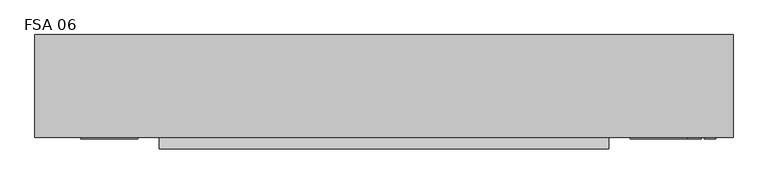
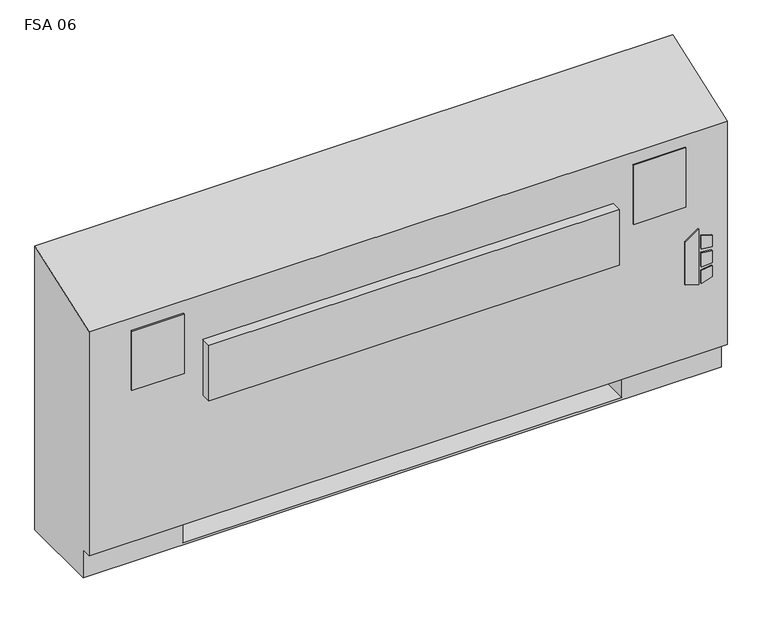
"""IFC4 building model written with IfcOpenShell, lengths in millimetres: proxy geometry, Vertical_Fan_Coil_Unit_-_FSA_-_IEC_-_2-Pipe_FS-FR_LH_2022 : FSA 06."""

import ifcopenshell
import ifcopenshell.guid

model = None  # the IFC model being written
_history = None  # IfcOwnerHistory: only IFC2X3 demands one
_inside = {}  # id of a spatial element -> (the spatial element, [elements in it])
_under = {}  # id of a project, library or spatial element -> (it, [spatial elements below it])
_declared = {}  # id of a project -> (the project, [libraries it declares])
_typed = {}  # id of a type object -> (the type object, [elements of that type])
_made_of = {}  # id of a material, layer set ... -> (it, [elements and type objects made of it])


def new_model(schema):
    """Start an empty IFC model of exactly this schema.

    Asked for "IFC4X3", IfcOpenShell would pick the latest addendum, in which some entities
    have other attributes; the version numbers below select the first issue.
    IFC2X3 requires an IfcOwnerHistory on every rooted entity: one is made here for all.
    """
    global model, _history
    if schema == "IFC4X3":
        model = ifcopenshell.file(schema_version=(4, 3, 0, 0))
    else:
        model = ifcopenshell.file(schema=schema)
    _inside.clear()
    _under.clear()
    _declared.clear()
    _typed.clear()
    _made_of.clear()
    _history = None
    if model.schema == "IFC2X3":
        org = make("IfcOrganization", Name="unknown")
        user = make(
            "IfcPersonAndOrganization",
            ThePerson=make("IfcPerson", FamilyName="unknown"),
            TheOrganization=org,
        )
        app = make(
            "IfcApplication",
            ApplicationDeveloper=org,
            Version="unknown",
            ApplicationFullName="unknown",
            ApplicationIdentifier="unknown",
        )
        _history = make(
            "IfcOwnerHistory",
            OwningUser=user,
            OwningApplication=app,
            ChangeAction="ADDED",
            CreationDate=0,
        )
    return model


def make(cls, **values):
    """One entity of the class cls with the attributes given. An attribute that is None is left unset."""
    return model.create_entity(
        cls, **{name: value for name, value in values.items() if value is not None}
    )


def rooted(cls, **values):
    """An entity with a GlobalId (a new one), such as an element, a storey or a relation."""
    return make(cls, GlobalId=ifcopenshell.guid.new(), OwnerHistory=_history, **values)


def si_unit(unit_type, name, prefix=None):
    """IfcSIUnit, for example si_unit("LENGTHUNIT", "METRE", prefix="MILLI")."""
    return make("IfcSIUnit", UnitType=unit_type, Prefix=prefix, Name=name)


def assignment(units):
    """IfcUnitAssignment: the units of a project."""
    return None if units is None else make("IfcUnitAssignment", Units=units)


def point(xyz):
    """IfcCartesianPoint."""
    return None if xyz is None else make("IfcCartesianPoint", Coordinates=xyz)


def direction(xyz):
    """IfcDirection."""
    return None if xyz is None else make("IfcDirection", DirectionRatios=xyz)


def frame(location, z_axis=None, x_axis=None):
    """IfcAxis2Placement3D, a coordinate frame: its origin and axes. An axis left out is left unset."""
    return make(
        "IfcAxis2Placement3D",
        Location=point(location),
        Axis=direction(z_axis),
        RefDirection=direction(x_axis),
    )


def frame_2d(location, x_axis=None):
    """IfcAxis2Placement2D, a coordinate frame in the plane: its origin and x axis."""
    return make(
        "IfcAxis2Placement2D", Location=point(location), RefDirection=direction(x_axis)
    )


def origin():
    """The frame at (0, 0, 0) with its axes left unset."""
    return frame((0.0, 0.0, 0.0))


def place(relative_to, where):
    """IfcLocalPlacement: puts the frame where relative to a parent placement (None: the world)."""
    return make(
        "IfcLocalPlacement", PlacementRelTo=relative_to, RelativePlacement=where
    )


def context(
    kind, dimensions, precision=None, world=None, true_north=None, identifier=None
):
    """IfcGeometricRepresentationContext, for example the 3D "Model" context."""
    return make(
        "IfcGeometricRepresentationContext",
        ContextIdentifier=identifier,
        ContextType=kind,
        CoordinateSpaceDimension=dimensions,
        Precision=precision,
        WorldCoordinateSystem=world,
        TrueNorth=true_north,
    )


def project(units=None, contexts=None):
    """IfcProject with its units and contexts."""
    return rooted(
        "IfcProject",
        Name="project",
        RepresentationContexts=contexts,
        UnitsInContext=assignment(units),
    )


def spatial(cls, under=None, at=None, **own):
    """A site, building, storey or space (cls), placed at a placement, below another one or the project."""
    s = rooted(cls, ObjectPlacement=at, **own)
    if under is not None:
        _under.setdefault(under.id(), (under, []))[1].append(s)
    return s


def polyline(points):
    """IfcPolyline through the points."""
    return make("IfcPolyline", Points=[point(p) for p in points])


def circle_curve(where, radius):
    """IfcCircle in the frame where."""
    return make("IfcCircle", Position=where, Radius=radius)


def trimmed(basis, trim1, trim2, sense, master):
    """IfcTrimmedCurve: the piece of a basis curve between two trims."""
    return make(
        "IfcTrimmedCurve",
        BasisCurve=basis,
        Trim1=trim1,
        Trim2=trim2,
        SenseAgreement=sense,
        MasterRepresentation=master,
    )


def segment(curve, same_sense, transition):
    """IfcCompositeCurveSegment."""
    return make(
        "IfcCompositeCurveSegment",
        Transition=transition,
        SameSense=same_sense,
        ParentCurve=curve,
    )


def composite_curve(segments, self_intersect=None):
    """IfcCompositeCurve: segments joined end to end."""
    return make("IfcCompositeCurve", Segments=segments, SelfIntersect=self_intersect)


def outline(outer, holes=None, kind="AREA"):
    """IfcArbitraryClosedProfileDef: a profile drawn as a closed curve; with holes, ...WithVoids."""
    if holes is None:
        return make("IfcArbitraryClosedProfileDef", ProfileType=kind, OuterCurve=outer)
    return make(
        "IfcArbitraryProfileDefWithVoids",
        ProfileType=kind,
        OuterCurve=outer,
        InnerCurves=holes,
    )


def extrude(swept, where, along, depth):
    """IfcExtrudedAreaSolid: the profile swept, set in the frame where, extruded along a direction by depth."""
    return make(
        "IfcExtrudedAreaSolid",
        SweptArea=swept,
        Position=where,
        ExtrudedDirection=direction(along),
        Depth=depth,
    )


def shape(context_of_items, identifier, shape_type, items):
    """IfcShapeRepresentation: the items that make up one representation, for example the "Body"."""
    return make(
        "IfcShapeRepresentation",
        ContextOfItems=context_of_items,
        RepresentationIdentifier=identifier,
        RepresentationType=shape_type,
        Items=items,
    )


def source(mapping_origin, context_of_items, identifier, shape_type, items):
    """IfcRepresentationMap: a shape defined once, which mapped items show again and again."""
    return make(
        "IfcRepresentationMap",
        MappingOrigin=mapping_origin,
        MappedRepresentation=shape(context_of_items, identifier, shape_type, items),
    )


def transform(
    local_origin,
    x_axis=None,
    y_axis=None,
    z_axis=None,
    scale=None,
    scale2=None,
    scale3=None,
    uniform=True,
):
    """IfcCartesianTransformationOperator3D, or its non-uniform kind. x_axis, y_axis, z_axis: its Axis1, 2, 3."""
    if uniform:
        return make(
            "IfcCartesianTransformationOperator3D",
            Axis1=direction(x_axis),
            Axis2=direction(y_axis),
            LocalOrigin=point(local_origin),
            Scale=scale,
            Axis3=direction(z_axis),
        )
    return make(
        "IfcCartesianTransformationOperator3DnonUniform",
        Axis1=direction(x_axis),
        Axis2=direction(y_axis),
        LocalOrigin=point(local_origin),
        Scale=scale,
        Axis3=direction(z_axis),
        Scale2=scale2,
        Scale3=scale3,
    )


def mapped(mapping_source, mapping_target):
    """IfcMappedItem: shows the shape of a source again, moved by a transform."""
    return make(
        "IfcMappedItem", MappingSource=mapping_source, MappingTarget=mapping_target
    )


def made_of(thing, what):
    """Note that an element or type object is made of a material, layer set ...; save() writes the relation."""
    if what is not None:
        _made_of.setdefault(what.id(), (what, []))[1].append(thing)
    return thing


def element(
    cls,
    number,
    at=None,
    inside=None,
    cuts=None,
    type_object=None,
    material=None,
    context=None,
    identifier="Body",
    shape_type=None,
    held_by="IfcProductDefinitionShape",
    body=None,
    shapes=None,
    **own,
):
    """One element of the class cls, such as IfcWall. Its Tag is "e" and its number.

    at: its placement. inside: the storey or other place that contains it. cuts: it is an
    opening in that element (IfcRelVoidsElement). A single representation is given by context,
    identifier, shape_type and body (its items); several are given by shapes. held_by: the class
    of the entity that holds the representations. save() writes the other relations.
    """
    e = rooted(cls, Tag="e%d" % number, ObjectPlacement=at, **own)
    if body is not None:
        shapes = [shape(context, identifier, shape_type, body)]
    if shapes is not None:
        e.Representation = make(held_by, Representations=shapes)
    if inside is not None:
        _inside.setdefault(inside.id(), (inside, []))[1].append(e)
    if cuts is not None:
        rooted(
            "IfcRelVoidsElement", RelatingBuildingElement=cuts, RelatedOpeningElement=e
        )
    if type_object is not None:
        _typed.setdefault(type_object.id(), (type_object, []))[1].append(e)
    return made_of(e, material)


def aggregate(whole, parts):
    """IfcRelAggregates: a whole, such as a stair, and the parts it consists of."""
    return rooted("IfcRelAggregates", RelatingObject=whole, RelatedObjects=parts)


def save(model, path):
    """Write the relations noted so far, then the file.

    IfcRelAggregates (storeys below a building ...), IfcRelContainedInSpatialStructure (elements
    in a storey), IfcRelDefinesByType, IfcRelAssociatesMaterial and IfcRelDeclares: one each for
    every whole, place, type object, material and project.
    """
    for whole, parts in _under.values():
        aggregate(whole, parts)
    for where, things in _inside.values():
        rooted(
            "IfcRelContainedInSpatialStructure",
            RelatedElements=things,
            RelatingStructure=where,
        )
    for kind, things in _typed.values():
        rooted("IfcRelDefinesByType", RelatedObjects=things, RelatingType=kind)
    for what, things in _made_of.values():
        rooted("IfcRelAssociatesMaterial", RelatedObjects=things, RelatingMaterial=what)
    for by, libraries in _declared.values():
        rooted("IfcRelDeclares", RelatingContext=by, RelatedDefinitions=libraries)
    model.write(path)


def plane_surface(at):
    """IfcPlane: the flat surface through the origin of the frame at, square to its z axis."""
    return make("IfcPlane", Position=at)


def revolved_surface(curve, axis_point, axis_direction):
    """IfcSurfaceOfRevolution: the curve turned about the line through axis_point along axis_direction."""
    return make(
        "IfcSurfaceOfRevolution",
        SweptCurve=make("IfcArbitraryOpenProfileDef", ProfileType="CURVE", Curve=curve),
        AxisPosition=make("IfcAxis1Placement", Location=point(axis_point), Axis=direction(axis_direction)),
    )


def advanced_brep(points, edges, surfaces, faces):
    """IfcAdvancedBrep: a solid bounded by faces that lie on surfaces and meet in shared edges.

    An edge is (start, end): straight between two places in points (the first is 0);
    or (start, end, curve); or (start, end, curve, False) where it runs against its curve.
    A face is (place in surfaces, loops), or (place, loops, False) where it looks against
    its surface's normal. A loop lists edges by number (the first is 1), with a minus sign
    where the edge is run from its end to its start. The first loop is the outer one.
    """
    corners = [point(p) for p in points]
    vertices = [make("IfcVertexPoint", VertexGeometry=c) for c in corners]
    made = []
    for start, end, *more in edges:
        made.append(
            make(
                "IfcEdgeCurve",
                EdgeStart=vertices[start],
                EdgeEnd=vertices[end],
                EdgeGeometry=more[0] if more else make("IfcPolyline", Points=[corners[start], corners[end]]),
                SameSense=more[1] if len(more) > 1 else True,
            )
        )
    hull = []
    for where, loops, *sense in faces:
        bounds = []
        for j, loop in enumerate(loops):
            ring = [make("IfcOrientedEdge", EdgeElement=made[abs(k) - 1], Orientation=k > 0) for k in loop]
            bounds.append(
                make(
                    "IfcFaceOuterBound" if j == 0 else "IfcFaceBound",
                    Bound=make("IfcEdgeLoop", EdgeList=ring),
                    Orientation=True,
                )
            )
        hull.append(make("IfcAdvancedFace", Bounds=bounds, FaceSurface=surfaces[where], SameSense=sense[0] if sense else True))
    return make("IfcAdvancedBrep", Outer=make("IfcClosedShell", CfsFaces=hull))


def fsa_06_cc0eff2d(model_context):
    return source(origin(), model_context, "Body", "SolidModel", [
        extrude(outline(polyline([(263.9480703, 823.9868862), (254.0, 856.1602728), (396.1709244, 856.1602728), (373.1489183, 823.9868862), (263.9480703, 823.9868862)])), frame((0.0, 12.7, 0.0), z_axis=(0.0, 1.0, 0.0), x_axis=(0.0, 0.0, 1.0)), (0.0, 0.0, 1.0), 3.175),
        extrude(outline(polyline([(342.9473557, 862.9186058), (339.7449632, 889.0), (368.9738042, 889.0), (377.0382193, 862.9186058), (342.9473557, 862.9186058)])), frame((0.0, 12.7, 0.0), z_axis=(0.0, 1.0, 0.0), x_axis=(0.0, 0.0, 1.0)), (0.0, 0.0, 1.0), 3.175),
        extrude(outline(polyline([(291.0838288, 889.0), (287.4183279, 862.9186058), (254.0, 862.9186058), (262.6342372, 889.0), (291.0838288, 889.0)])), frame((0.0, 12.7, 0.0), z_axis=(0.0, 1.0, 0.0), x_axis=(0.0, 0.0, 1.0)), (0.0, 0.0, 1.0), 3.175),
        extrude(outline(polyline([(330.3989903, 889.0), (332.6808166, 862.9186058), (296.7432681, 862.9186058), (299.4845331, 889.0), (330.3989903, 889.0)])), frame((0.0, 12.7, 0.0), z_axis=(0.0, 1.0, 0.0), x_axis=(0.0, 0.0, 1.0)), (0.0, 0.0, 1.0), 3.175),
        extrude(outline(polyline([(806.45, 223.266), (806.45, 81.534), (685.8, 81.534), (685.8, 223.266), (806.45, 223.266)])), frame((0.0, 0.0, 327.025), z_axis=(0.0, 0.0, 1.0), x_axis=(1.0, 0.0, 0.0)), (0.0, 0.0, 1.0), 260.35),
        extrude(outline(polyline([(-393.7, 12.7), (-520.7, 12.7), (-520.7, 15.875), (-393.7, 15.875), (-393.7, 12.7)])), frame((0.0, 0.0, 463.55), z_axis=(0.0, 0.0, 1.0), x_axis=(1.0, 0.0, 0.0)), (0.0, 0.0, 1.0), 152.4),
        extrude(outline(polyline([(825.5, 12.7), (698.5, 12.7), (698.5, 15.875), (825.5, 15.875), (825.5, 12.7)])), frame((0.0, 0.0, 463.55), z_axis=(0.0, 0.0, 1.0), x_axis=(1.0, 0.0, 0.0)), (0.0, 0.0, 1.0), 152.4),
        extrude(outline(composite_curve([segment(trimmed(circle_curve(frame_2d((-444.5, 130.175)), 9.525), [point((-454.025, 130.175))], [point((-434.975, 130.175))], False, "CARTESIAN"), True, "CONTINUOUS"), segment(trimmed(circle_curve(frame_2d((-444.5, 130.175)), 9.525), [point((-434.975, 130.175))], [point((-454.025, 130.175))], False, "CARTESIAN"), True, "CONTINUOUS")], self_intersect=False)), frame((0.0, 0.0, 101.6), z_axis=(0.0, 0.0, 1.0), x_axis=(1.0, 0.0, 0.0)), (0.0, 0.0, 1.0), 25.4),
        extrude(outline(polyline([(-546.1, 63.5), (-546.1, 196.85), (-381.0, 196.85), (-381.0, 63.5), (-546.1, 63.5)])), frame((0.0, 0.0, 127.0), z_axis=(0.0, 0.0, 1.0), x_axis=(1.0, 0.0, 0.0)), (0.0, 0.0, 1.0), 50.8),
        extrude(outline(polyline([(650.875, -9.525), (-346.075, -9.525), (-346.075, 15.875), (650.875, 15.875), (650.875, -9.525)])), frame((0.0, 0.0, 389.3009245), z_axis=(0.0, 0.0, 1.0), x_axis=(1.0, 0.0, 0.0)), (0.0, 0.0, 1.0), 142.875),
        extrude(outline(composite_curve([segment(trimmed(circle_curve(frame_2d((109.347, 456.819)), 7.9375), [point((109.347, 464.7565))], [point((109.347, 448.8815))], False, "CARTESIAN"), True, "CONTINUOUS"), segment(trimmed(circle_curve(frame_2d((109.347, 456.819)), 7.9375), [point((109.347, 448.8815))], [point((109.347, 464.7565))], False, "CARTESIAN"), True, "CONTINUOUS")], self_intersect=False)), frame((-431.8, 0.0, 0.0), z_axis=(1.0, 0.0, 0.0), x_axis=(0.0, 1.0, 0.0)), (0.0, 0.0, 1.0), 50.8),
        extrude(outline(composite_curve([segment(trimmed(circle_curve(frame_2d((157.4546, 429.4632)), 7.9375), [point((157.4546, 437.4007))], [point((157.4546, 421.5257))], False, "CARTESIAN"), True, "CONTINUOUS"), segment(trimmed(circle_curve(frame_2d((157.4546, 429.4632)), 7.9375), [point((157.4546, 421.5257))], [point((157.4546, 437.4007))], False, "CARTESIAN"), True, "CONTINUOUS")], self_intersect=False)), frame((-431.8, 0.0, 0.0), z_axis=(1.0, 0.0, 0.0), x_axis=(0.0, 1.0, 0.0)), (0.0, 0.0, 1.0), 50.8),
        advanced_brep(
        [(-622.3, 244.475, 0.0), (927.1, 244.475, 0.0), (927.1, 41.275, 0.0), (-622.3, 41.275, 0.0), (-622.3, 244.475, 730.25), (927.1, 244.475, 730.25), (685.8, 244.475, 73.025), (914.4, 244.475, 73.025), (914.4, 244.475, 654.05), (685.8, 244.475, 654.05), (685.8, 244.475, 414.8650565), (714.375, 244.475, 414.8650565), (714.375, 244.475, 385.2349435), (685.8, 244.475, 385.2349435), (685.8, 244.475, 287.3375), (714.375, 244.475, 287.3375), (714.375, 244.475, 258.7625), (685.8, 244.475, 258.7625), (685.8, 244.475, 141.2875), (714.375, 244.475, 141.2875), (714.375, 244.475, 112.7125), (685.8, 244.475, 112.7125), (-381.0, 244.475, 654.05), (-609.6, 244.475, 654.05), (-609.6, 244.475, 73.025), (-381.0, 244.475, 73.025), (-381.0, 244.475, 112.7125), (-409.575, 244.475, 112.7125), (-409.575, 244.475, 141.2875), (-381.0, 244.475, 141.2875), (-381.0, 244.475, 258.7625), (-409.575, 244.475, 258.7625), (-409.575, 244.475, 287.3375), (-381.0, 244.475, 287.3375), (-381.0, 244.475, 385.2349435), (-409.575, 244.475, 385.2349435), (-409.575, 244.475, 414.8650565), (-381.0, 244.475, 414.8650565), (704.0626, 244.475, 127.0), (692.9374, 244.475, 127.0), (704.0626, 244.475, 400.05), (692.9374, 244.475, 400.05), (704.0626, 244.475, 273.05), (692.9374, 244.475, 273.05), (-388.1374, 244.475, 127.0), (-399.2626, 244.475, 127.0), (-388.1374, 244.475, 273.05), (-399.2626, 244.475, 273.05), (-388.1374, 244.475, 400.05), (-399.2626, 244.475, 400.05), (-622.3, 41.275, 73.025), (-622.3, 15.875, 73.025), (-622.3, 15.875, 647.7), (927.1, 15.875, 73.025), (927.1, 15.875, 647.7), (927.1, 41.275, 73.025), (-381.0, 41.275, 73.025), (-381.0, 225.425, 73.025), (685.8, 225.425, 73.025), (685.8, 41.275, 73.025), (685.8, 41.275, 6.35), (-381.0, 41.275, 6.35), (685.8, 41.275, 654.05), (914.4, 41.275, 654.05), (914.4, 41.275, 73.025), (685.8, 41.275, 73.025), (-381.0, 41.275, 654.05), (-381.0, 41.275, 73.025), (-609.6, 41.275, 73.025), (-609.6, 41.275, 654.05), (685.8, 225.425, 73.025), (685.8, 238.125, 112.7125), (685.8, 238.125, 141.2875), (685.8, 238.125, 258.7625), (685.8, 238.125, 287.3375), (685.8, 238.125, 385.2349435), (685.8, 238.125, 414.8650565), (-381.0, 225.425, 73.025), (-381.0, 238.125, 414.8650565), (-381.0, 238.125, 385.2349435), (-381.0, 238.125, 287.3375), (-381.0, 238.125, 258.7625), (-381.0, 238.125, 141.2875), (-381.0, 238.125, 112.7125), (-381.0, 225.425, 6.35), (685.8, 225.425, 6.35), (714.375, 238.125, 112.7125), (714.375, 238.125, 141.2875), (692.9374, 238.125, 127.0), (704.0626, 238.125, 127.0), (714.375, 238.125, 258.7625), (714.375, 238.125, 287.3375), (692.9374, 238.125, 273.05), (704.0626, 238.125, 273.05), (714.375, 238.125, 385.2349435), (714.375, 238.125, 414.8650565), (692.9374, 238.125, 400.05), (704.0626, 238.125, 400.05), (-409.575, 238.125, 141.2875), (-409.575, 238.125, 112.7125), (-399.2626, 238.125, 127.0), (-388.1374, 238.125, 127.0), (-409.575, 238.125, 287.3375), (-409.575, 238.125, 258.7625), (-399.2626, 238.125, 273.05), (-388.1374, 238.125, 273.05), (-409.575, 238.125, 414.8650565), (-409.575, 238.125, 385.2349435), (-399.2626, 238.125, 400.05), (-388.1374, 238.125, 400.05)],
        [
            (0, 1),
            (1, 2),
            (2, 3),
            (3, 0),
            (0, 4),
            (4, 5),
            (5, 1),
            (6, 7),
            (7, 8),
            (8, 9),
            (9, 10),
            (10, 11),
            (11, 12),
            (12, 13),
            (13, 14),
            (14, 15),
            (15, 16),
            (16, 17),
            (17, 18),
            (18, 19),
            (19, 20),
            (20, 21),
            (21, 6),
            (22, 23),
            (23, 24),
            (24, 25),
            (25, 26),
            (26, 27),
            (27, 28),
            (28, 29),
            (29, 30),
            (30, 31),
            (31, 32),
            (32, 33),
            (33, 34),
            (34, 35),
            (35, 36),
            (36, 37),
            (37, 22),
            (38, 39, circle_curve(frame((698.5, 244.475, 127.0), z_axis=(0.0, -1.0, 0.0), x_axis=(-1.0, 0.0, 0.0)), 5.5626)),
            (39, 38, circle_curve(frame((698.5, 244.475, 127.0), z_axis=(0.0, -1.0, 0.0), x_axis=(-1.0, 0.0, 0.0)), 5.5626)),
            (40, 41, circle_curve(frame((698.5, 244.475, 400.05), z_axis=(0.0, -1.0, 0.0), x_axis=(-1.0, 0.0, 0.0)), 5.5626)),
            (41, 40, circle_curve(frame((698.5, 244.475, 400.05), z_axis=(0.0, -1.0, 0.0), x_axis=(-1.0, 0.0, 0.0)), 5.5626)),
            (42, 43, circle_curve(frame((698.5, 244.475, 273.05), z_axis=(0.0, -1.0, 0.0), x_axis=(-1.0, 0.0, 0.0)), 5.5626)),
            (43, 42, circle_curve(frame((698.5, 244.475, 273.05), z_axis=(0.0, -1.0, 0.0), x_axis=(-1.0, 0.0, 0.0)), 5.5626)),
            (44, 45, circle_curve(frame((-393.7, 244.475, 127.0), z_axis=(0.0, -1.0, 0.0), x_axis=(-1.0, 0.0, 0.0)), 5.5626)),
            (45, 44, circle_curve(frame((-393.7, 244.475, 127.0), z_axis=(0.0, -1.0, 0.0), x_axis=(-1.0, 0.0, 0.0)), 5.5626)),
            (46, 47, circle_curve(frame((-393.7, 244.475, 273.05), z_axis=(0.0, -1.0, 0.0), x_axis=(-1.0, 0.0, 0.0)), 5.5626)),
            (47, 46, circle_curve(frame((-393.7, 244.475, 273.05), z_axis=(0.0, -1.0, 0.0), x_axis=(-1.0, 0.0, 0.0)), 5.5626)),
            (48, 49, circle_curve(frame((-393.7, 244.475, 400.05), z_axis=(0.0, -1.0, 0.0), x_axis=(-1.0, 0.0, 0.0)), 5.5626)),
            (49, 48, circle_curve(frame((-393.7, 244.475, 400.05), z_axis=(0.0, -1.0, 0.0), x_axis=(-1.0, 0.0, 0.0)), 5.5626)),
            (3, 50),
            (50, 51),
            (51, 52),
            (52, 4),
            (51, 53),
            (53, 54),
            (54, 52),
            (5, 54),
            (53, 55),
            (55, 2),
            (50, 56),
            (56, 57),
            (57, 58),
            (58, 59),
            (59, 55),
            (59, 60),
            (60, 61),
            (61, 56),
            (62, 63),
            (63, 64),
            (64, 65),
            (65, 62),
            (66, 67),
            (67, 68),
            (68, 69),
            (69, 66),
            (65, 70),
            (70, 6),
            (21, 71),
            (71, 72),
            (72, 18),
            (17, 73),
            (73, 74),
            (74, 14),
            (13, 75),
            (75, 76),
            (76, 10),
            (9, 62),
            (64, 7),
            (63, 8),
            (69, 23),
            (22, 66),
            (68, 24),
            (67, 77),
            (77, 25),
            (37, 78),
            (78, 79),
            (79, 34),
            (33, 80),
            (80, 81),
            (81, 30),
            (29, 82),
            (82, 83),
            (83, 26),
            (57, 84),
            (84, 85),
            (85, 58),
            (85, 60),
            (84, 61),
            (71, 86),
            (86, 87),
            (87, 72),
            (88, 89, circle_curve(frame((698.5, 238.125, 127.0), z_axis=(0.0, 1.0, 0.0), x_axis=(-1.0, 0.0, 0.0)), 5.5626)),
            (89, 88, circle_curve(frame((698.5, 238.125, 127.0), z_axis=(0.0, 1.0, 0.0), x_axis=(-1.0, 0.0, 0.0)), 5.5626)),
            (73, 90),
            (90, 91),
            (91, 74),
            (92, 93, circle_curve(frame((698.5, 238.125, 273.05), z_axis=(0.0, 1.0, 0.0), x_axis=(-1.0, 0.0, 0.0)), 5.5626)),
            (93, 92, circle_curve(frame((698.5, 238.125, 273.05), z_axis=(0.0, 1.0, 0.0), x_axis=(-1.0, 0.0, 0.0)), 5.5626)),
            (75, 94),
            (94, 95),
            (95, 76),
            (96, 97, circle_curve(frame((698.5, 238.125, 400.05), z_axis=(0.0, 1.0, 0.0), x_axis=(-1.0, 0.0, 0.0)), 5.5626)),
            (97, 96, circle_curve(frame((698.5, 238.125, 400.05), z_axis=(0.0, 1.0, 0.0), x_axis=(-1.0, 0.0, 0.0)), 5.5626)),
            (98, 99),
            (99, 83),
            (82, 98),
            (100, 101, circle_curve(frame((-393.7, 238.125, 127.0), z_axis=(0.0, 1.0, 0.0), x_axis=(-1.0, 0.0, 0.0)), 5.5626)),
            (101, 100, circle_curve(frame((-393.7, 238.125, 127.0), z_axis=(0.0, 1.0, 0.0), x_axis=(-1.0, 0.0, 0.0)), 5.5626)),
            (102, 103),
            (103, 81),
            (80, 102),
            (104, 105, circle_curve(frame((-393.7, 238.125, 273.05), z_axis=(0.0, 1.0, 0.0), x_axis=(-1.0, 0.0, 0.0)), 5.5626)),
            (105, 104, circle_curve(frame((-393.7, 238.125, 273.05), z_axis=(0.0, 1.0, 0.0), x_axis=(-1.0, 0.0, 0.0)), 5.5626)),
            (106, 107),
            (107, 79),
            (78, 106),
            (108, 109, circle_curve(frame((-393.7, 238.125, 400.05), z_axis=(0.0, 1.0, 0.0), x_axis=(-1.0, 0.0, 0.0)), 5.5626)),
            (109, 108, circle_curve(frame((-393.7, 238.125, 400.05), z_axis=(0.0, 1.0, 0.0), x_axis=(-1.0, 0.0, 0.0)), 5.5626)),
            (87, 19),
            (86, 20),
            (91, 15),
            (90, 16),
            (95, 11),
            (94, 12),
            (28, 98),
            (99, 27),
            (32, 102),
            (103, 31),
            (36, 106),
            (107, 35),
            (88, 39),
            (38, 89),
            (96, 41),
            (40, 97),
            (92, 43),
            (42, 93),
            (100, 45),
            (44, 101),
            (104, 47),
            (46, 105),
            (108, 49),
            (48, 109),
        ],
        [
            plane_surface(frame((-622.3, 244.475, 0.0), z_axis=(0.0, 0.0, -1.0), x_axis=(1.0, 0.0, 0.0))),
            plane_surface(frame((927.1, 244.475, 730.25), z_axis=(0.0, 1.0, 0.0), x_axis=(0.0, 0.0, -1.0))),
            plane_surface(frame((-622.3, 244.475, 730.25), z_axis=(-1.0, 0.0, 0.0), x_axis=(0.0, 0.0, -1.0))),
            plane_surface(frame((-622.3, 15.875, 730.25), z_axis=(0.0, -1.0, 0.0), x_axis=(0.0, 0.0, -1.0))),
            plane_surface(frame((927.1, 15.875, 730.25), z_axis=(1.0, 0.0, 0.0), x_axis=(0.0, 0.0, -1.0))),
            plane_surface(frame((-622.3, 15.875, 73.025), z_axis=(0.0, 0.0, -1.0), x_axis=(1.0, 0.0, 0.0))),
            plane_surface(frame((-622.3, 41.275, 73.025), z_axis=(0.0, -1.0, 0.0), x_axis=(1.0, 0.0, 0.0))),
            plane_surface(frame((685.8, 41.275, 654.05), z_axis=(0.0, 1.0, 0.0), x_axis=(0.0, 0.0, -1.0))),
            plane_surface(frame((685.8, 41.275, 654.05), z_axis=(1.0, 0.0, 0.0), x_axis=(0.0, 1.0, 0.0))),
            plane_surface(frame((685.8, 41.275, 73.025), z_axis=(0.0, 0.0, 1.0), x_axis=(0.0, 1.0, 0.0))),
            plane_surface(frame((914.4, 41.275, 73.025), z_axis=(-1.0, 0.0, 0.0), x_axis=(0.0, 1.0, 0.0))),
            plane_surface(frame((914.4, 41.275, 654.05), z_axis=(0.0, 0.0, -1.0), x_axis=(0.0, 1.0, 0.0))),
            plane_surface(frame((-381.0, 41.275, 654.05), z_axis=(0.0, 0.0, -1.0), x_axis=(0.0, 1.0, 0.0))),
            plane_surface(frame((-609.6, 41.275, 654.05), z_axis=(1.0, 0.0, 0.0), x_axis=(0.0, 1.0, 0.0))),
            plane_surface(frame((-609.6, 41.275, 73.025), z_axis=(0.0, 0.0, 1.0), x_axis=(0.0, 1.0, 0.0))),
            plane_surface(frame((-381.0, 41.275, 73.025), z_axis=(-1.0, 0.0, 0.0), x_axis=(0.0, 1.0, 0.0))),
            plane_surface(frame((685.8, 225.425, 73.025), z_axis=(0.0, -1.0, 0.0), x_axis=(0.0, 0.0, -1.0))),
            plane_surface(frame((685.8, 225.425, 73.025), z_axis=(-1.0, 0.0, 0.0), x_axis=(0.0, -1.0, 0.0))),
            plane_surface(frame((685.8, 225.425, 6.35), z_axis=(0.0, 0.0, 1.0), x_axis=(0.0, -1.0, 0.0))),
            plane_surface(frame((-381.0, 225.425, 6.35), z_axis=(1.0, 0.0, 0.0), x_axis=(0.0, -1.0, 0.0))),
            plane_surface(frame((714.375, 238.125, 141.2875), z_axis=(0.0, -1.0, 0.0), x_axis=(-1.0, 0.0, 0.0))),
            plane_surface(frame((685.8, 244.475, 141.2875), z_axis=(0.0, 0.0, 1.0), x_axis=(0.0, -1.0, 0.0))),
            plane_surface(frame((714.375, 244.475, 141.2875), z_axis=(1.0, 0.0, 0.0), x_axis=(0.0, -1.0, 0.0))),
            plane_surface(frame((714.375, 244.475, 112.7125), z_axis=(0.0, 0.0, -1.0), x_axis=(0.0, -1.0, 0.0))),
            plane_surface(frame((685.8, 244.475, 287.3375), z_axis=(0.0, 0.0, 1.0), x_axis=(0.0, -1.0, 0.0))),
            plane_surface(frame((714.375, 244.475, 287.3375), z_axis=(1.0, 0.0, 0.0), x_axis=(0.0, -1.0, 0.0))),
            plane_surface(frame((714.375, 244.475, 258.7625), z_axis=(0.0, 0.0, -1.0), x_axis=(0.0, -1.0, 0.0))),
            plane_surface(frame((685.8, 244.475, 414.8650565), z_axis=(0.0, 0.0, 1.0), x_axis=(0.0, -1.0, 0.0))),
            plane_surface(frame((714.375, 244.475, 414.8650565), z_axis=(1.0, 0.0, 0.0), x_axis=(0.0, -1.0, 0.0))),
            plane_surface(frame((714.375, 244.475, 385.2349435), z_axis=(0.0, 0.0, -1.0), x_axis=(0.0, -1.0, 0.0))),
            plane_surface(frame((-409.575, 244.475, 141.2875), z_axis=(0.0, 0.0, 1.0), x_axis=(0.0, -1.0, 0.0))),
            plane_surface(frame((-381.0, 244.475, 112.7125), z_axis=(0.0, 0.0, -1.0), x_axis=(0.0, -1.0, 0.0))),
            plane_surface(frame((-409.575, 244.475, 112.7125), z_axis=(-1.0, 0.0, 0.0), x_axis=(0.0, -1.0, 0.0))),
            plane_surface(frame((-409.575, 244.475, 287.3375), z_axis=(0.0, 0.0, 1.0), x_axis=(0.0, -1.0, 0.0))),
            plane_surface(frame((-381.0, 244.475, 258.7625), z_axis=(0.0, 0.0, -1.0), x_axis=(0.0, -1.0, 0.0))),
            plane_surface(frame((-409.575, 244.475, 258.7625), z_axis=(-1.0, 0.0, 0.0), x_axis=(0.0, -1.0, 0.0))),
            plane_surface(frame((-409.575, 244.475, 414.8650565), z_axis=(0.0, 0.0, 1.0), x_axis=(0.0, -1.0, 0.0))),
            plane_surface(frame((-381.0, 244.475, 385.2349435), z_axis=(0.0, 0.0, -1.0), x_axis=(0.0, -1.0, 0.0))),
            plane_surface(frame((-409.575, 244.475, 385.2349435), z_axis=(-1.0, 0.0, 0.0), x_axis=(0.0, -1.0, 0.0))),
            revolved_surface(polyline([(692.9374, 238.125, 127.0), (692.9374, 244.475, 127.0)]), (698.5, 244.475, 127.0), (0.0, -1.0, 0.0)),
            revolved_surface(polyline([(692.9374, 238.125, 400.05), (692.9374, 244.475, 400.05)]), (698.5, 244.475, 400.05), (0.0, -1.0, 0.0)),
            revolved_surface(polyline([(692.9374, 238.125, 273.05), (692.9374, 244.475, 273.05)]), (698.5, 244.475, 273.05), (0.0, -1.0, 0.0)),
            revolved_surface(polyline([(-399.26259999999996, 238.125, 127.0), (-399.26259999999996, 244.475, 127.0)]), (-393.7, 244.475, 127.0), (0.0, -1.0, 0.0)),
            revolved_surface(polyline([(-399.26259999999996, 238.125, 273.05), (-399.26259999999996, 244.475, 273.05)]), (-393.7, 244.475, 273.05), (0.0, -1.0, 0.0)),
            revolved_surface(polyline([(-399.26259999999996, 238.125, 400.05), (-399.26259999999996, 244.475, 400.05)]), (-393.7, 244.475, 400.05), (0.0, -1.0, 0.0)),
            plane_surface(frame((-622.3, 244.475, 730.25), z_axis=(0.0, -0.33964446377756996, 0.9405538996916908), x_axis=(1.0, 0.0, 0.0))),
        ],
        [
            (0, [[1, 2, 3, 4]]),
            (1, [[-1, 5, 6, 7], [8, 9, 10, 11, 12, 13, 14, 15, 16, 17, 18, 19, 20, 21, 22, 23], [24, 25, 26, 27, 28, 29, 30, 31, 32, 33, 34, 35, 36, 37, 38, 39], [40, 41], [42, 43], [44, 45], [46, 47], [48, 49], [50, 51]]),
            (2, [[-5, -4, 52, 53, 54, 55]]),
            (3, [[56, 57, 58, -54]]),
            (4, [[-7, 59, -57, 60, 61, -2]]),
            (5, [[-53, 62, 63, 64, 65, 66, -60, -56]]),
            (6, [[-3, -61, -66, 67, 68, 69, -62, -52]]),
            (7, [[70, 71, 72, 73]]),
            (7, [[74, 75, 76, 77]]),
            (8, [[-73, 78, 79, -23, 80, 81, 82, -19, 83, 84, 85, -15, 86, 87, 88, -11, 89]]),
            (9, [[-72, 90, -8, -79, -78]]),
            (10, [[-71, 91, -9, -90]]),
            (11, [[-70, -89, -10, -91]]),
            (12, [[-77, 92, -24, 93]]),
            (13, [[-76, 94, -25, -92]]),
            (14, [[-75, 95, 96, -26, -94]]),
            (15, [[-74, -93, -39, 97, 98, 99, -35, 100, 101, 102, -31, 103, 104, 105, -27, -96, -95]]),
            (16, [[-64, 106, 107, 108]]),
            (17, [[-108, 109, -67, -65]]),
            (18, [[-107, 110, -68, -109]]),
            (19, [[-106, -63, -69, -110]]),
            (20, [[111, 112, 113, -81], [114, 115]]),
            (20, [[116, 117, 118, -84], [119, 120]]),
            (20, [[121, 122, 123, -87], [124, 125]]),
            (20, [[126, 127, -104, 128], [129, 130]]),
            (20, [[131, 132, -101, 133], [134, 135]]),
            (20, [[136, 137, -98, 138], [139, 140]]),
            (21, [[-113, 141, -20, -82]]),
            (22, [[-112, 142, -21, -141]]),
            (23, [[-111, -80, -22, -142]]),
            (24, [[-118, 143, -16, -85]]),
            (25, [[-117, 144, -17, -143]]),
            (26, [[-116, -83, -18, -144]]),
            (27, [[-123, 145, -12, -88]]),
            (28, [[-122, 146, -13, -145]]),
            (29, [[-121, -86, -14, -146]]),
            (30, [[-128, -103, -30, 147]]),
            (31, [[-127, 148, -28, -105]]),
            (32, [[-126, -147, -29, -148]]),
            (33, [[-133, -100, -34, 149]]),
            (34, [[-132, 150, -32, -102]]),
            (35, [[-131, -149, -33, -150]]),
            (36, [[-138, -97, -38, 151]]),
            (37, [[-137, 152, -36, -99]]),
            (38, [[-136, -151, -37, -152]]),
            (39, [[153, -40, 154, -114]]),
            (39, [[-153, -115, -154, -41]]),
            (40, [[155, -42, 156, -124]]),
            (40, [[-155, -125, -156, -43]]),
            (41, [[157, -44, 158, -119]]),
            (41, [[-157, -120, -158, -45]]),
            (42, [[159, -46, 160, -129]]),
            (42, [[-159, -130, -160, -47]]),
            (43, [[161, -48, 162, -134]]),
            (43, [[-161, -135, -162, -49]]),
            (44, [[163, -50, 164, -139]]),
            (44, [[-163, -140, -164, -51]]),
            (45, [[-6, -55, -58, -59]]),
        ],
    ),
    ])


if __name__ == "__main__":
    model = new_model("IFC4")
    model_context = context("Model", 3, world=origin())
    ifc_project = project(units=[si_unit("LENGTHUNIT", "METRE", prefix="MILLI")], contexts=[model_context])
    site = spatial("IfcSite", under=ifc_project)
    building = spatial("IfcBuilding", under=site)
    placement = place(None, origin())
    fsa_06_shape = fsa_06_cc0eff2d(model_context)
    element("IfcBuildingElementProxy", 1, Name="Vertical_Fan_Coil_Unit_-_FSA_-_IEC_-_2-Pipe_FS-FR_LH_2022 : FSA 06", ObjectType="Vertical_Fan_Coil_Unit_-_FSA_-_IEC_-_2-Pipe_FS-FR_LH_2022 : FSA 06", at=placement, inside=building, context=model_context, shape_type="MappedRepresentation", body=[
        mapped(fsa_06_shape, transform((0.0, 0.0, 0.0), x_axis=(1.0, 0.0, 0.0), y_axis=(0.0, 1.0, 0.0), z_axis=(0.0, 0.0, 1.0))),
    ])
    save(model, "model.ifc")
